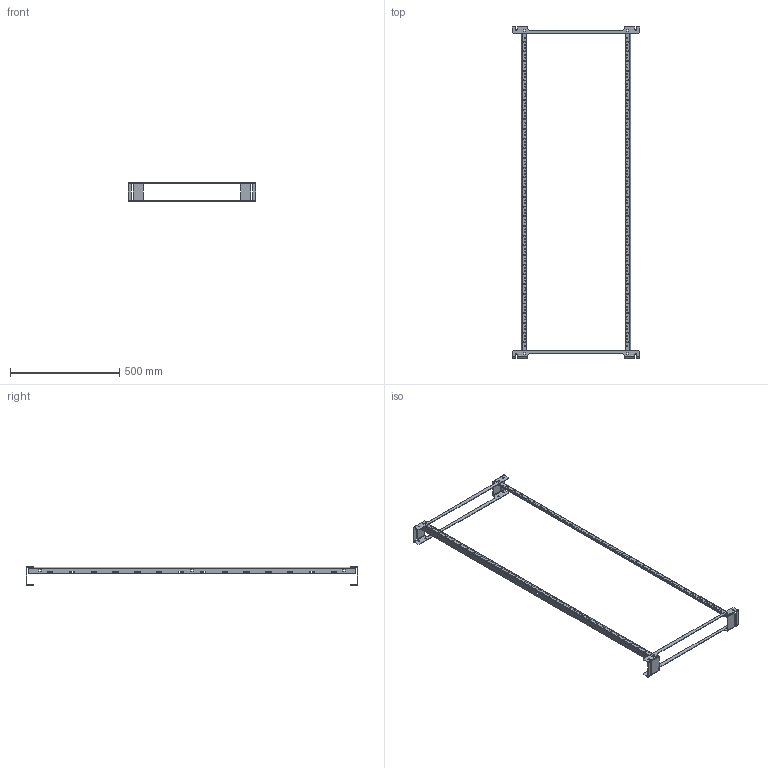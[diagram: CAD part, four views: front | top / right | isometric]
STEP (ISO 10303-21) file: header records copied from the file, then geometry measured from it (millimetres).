
FILE_DESCRIPTION (( 'STEP AP203' ), '1' );
FILE_NAME ('ptra60t.STEP', '2013-07-03T15:16:26', ( 'User' ), ( 'Pentair Inc' ), 'SwSTEP 2.0', 'SolidWorks 2010', '' );
FILE_SCHEMA (( 'CONFIG_CONTROL_DESIGN' ));
Length unit declared in the file: inch
Products named in the file (3): ptra60t; 89072127_87931339; 89060606_89060606
Assembly tree (4 placements, depth 2):
  ptra60t
    89072127_87931339  x2
    89060606_89060606  x2
Bounding box: 585 x 1521.51 x 85 mm (x, y, z)
Volume: 510770.9 mm3; surface area: 458391 mm2
Topology: 4 solids, 4 shells, 880 faces, 2540 edges, 1656 vertices
Faces by surface type: cylinder 624, plane 256
Entity records: 15681 total; most frequent: DIRECTION 2788, CARTESIAN_POINT 2545, ORIENTED_EDGE 2540, EDGE_CURVE 1270, AXIS2_PLACEMENT_3D 1071, VERTEX_POINT 828, EDGE_LOOP 742, LINE 646
